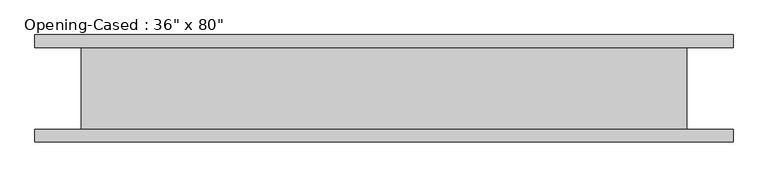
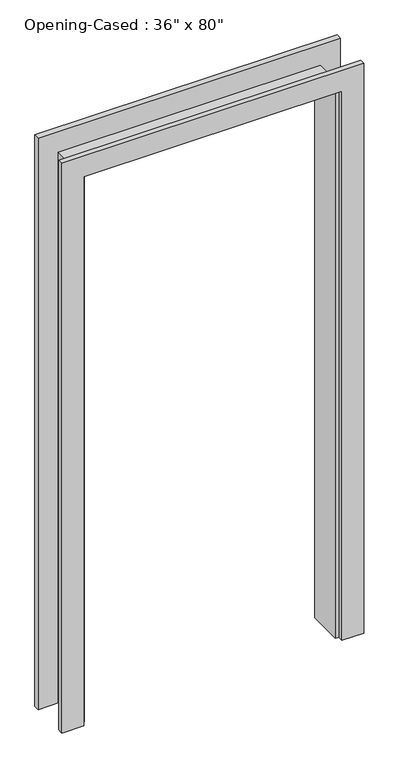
"""IFC4 building model written with IfcOpenShell, lengths in millimetres: proxy geometry."""

from ifc_helpers import new_model, si_unit, frame, origin, place, context, project, spatial, polyline, outline, extrude, faceted_brep, source, transform, mapped, element, save


def proxy_02bc8a0f(model_context):
    return source(origin(), model_context, "Body", "SolidModel", [
        extrude(outline(polyline([(0.0, -459.0386567), (2025.65, -459.0386567), (2025.65, 442.6613433), (0.0, 442.6613433), (0.0, 518.8613433), (2101.85, 518.8613433), (2101.85, -535.2386567), (0.0, -535.2386567), (0.0, -459.0386567)])), frame((0.0, -80.9625, 0.0), z_axis=(0.0, 1.0, 0.0), x_axis=(0.0, 0.0, 1.0)), (0.0, 0.0, 1.0), 19.05),
        extrude(outline(polyline([(0.0, 518.8613433), (2108.2, 518.8613433), (2108.2, -535.2386567), (0.0, -535.2386567), (0.0, -459.0386567), (2025.65, -459.0386567), (2025.65, 442.6613433), (0.0, 442.6613433), (0.0, 518.8613433)])), frame((0.0, 61.9125, 0.0), z_axis=(0.0, 1.0, 0.0), x_axis=(0.0, 0.0, 1.0)), (0.0, 0.0, 1.0), 19.05),
        faceted_brep([(429.9613433, 61.9125, 0.0), (449.0113433, 61.9125, 0.0), (449.0113433, -61.9125, 0.0), (429.9613433, -61.9125, 0.0), (429.9613433, 61.9125, 2012.95), (449.0113433, 61.9125, 2032.0), (449.0113433, -61.9125, 2032.0), (429.9613433, -61.9125, 2012.95), (-446.3386567, 61.9125, 2012.95), (-465.3886567, 61.9125, 2032.0), (-465.3886567, -61.9125, 2032.0), (-446.3386567, -61.9125, 2012.95), (-446.3386567, 61.9125, 0.0), (-446.3386567, -61.9125, 0.0), (-465.3886567, -61.9125, 0.0), (-465.3886567, 61.9125, 0.0)], [[[0, 1, 2, 3]], [[1, 0, 4, 5]], [[2, 1, 5, 6]], [[3, 2, 6, 7]], [[0, 3, 7, 4]], [[5, 4, 8, 9]], [[6, 5, 9, 10]], [[7, 6, 10, 11]], [[4, 7, 11, 8]], [[12, 13, 14, 15]], [[9, 8, 12, 15]], [[10, 9, 15, 14]], [[11, 10, 14, 13]], [[8, 11, 13, 12]]]),
    ])


if __name__ == "__main__":
    model = new_model("IFC4")
    model_context = context("Model", 3, world=origin())
    ifc_project = project(units=[si_unit("LENGTHUNIT", "METRE", prefix="MILLI")], contexts=[model_context])
    site = spatial("IfcSite", under=ifc_project)
    building = spatial("IfcBuilding", under=site)
    placement = place(None, origin())
    proxy_shape = proxy_02bc8a0f(model_context)
    element("IfcBuildingElementProxy", 1, Name="Opening-Cased : 36\" x 80\"", ObjectType="Opening-Cased : 36\" x 80\"", at=placement, inside=building, context=model_context, shape_type="MappedRepresentation", body=[
        mapped(proxy_shape, transform((0.0, 0.0, 0.0), x_axis=(1.0, 0.0, 0.0), y_axis=(0.0, 1.0, 0.0), z_axis=(0.0, 0.0, 1.0))),
    ])
    save(model, "model.ifc")
